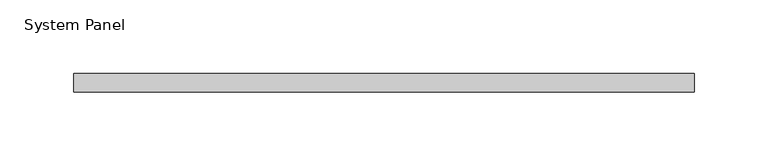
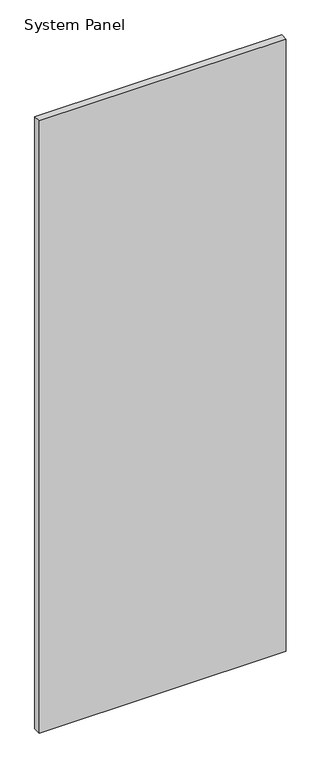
"""IFC4 building model written with IfcOpenShell, lengths in millimetres: plate geometry, System Panel : CR-BARANDA."""

from ifc_helpers import new_model, si_unit, origin, origin_with_axes, place, context, project, spatial, polyline, outline, extrude, source, transform, mapped, element, save


def system_panel_bb99d6db(model_context):
    return source(origin(), model_context, "Body", "SweptSolid", [
        extrude(outline(polyline([(209.9999998, -6.25), (-209.9999998, -6.25), (-209.9999998, 6.25), (209.9999998, 6.25), (209.9999998, -6.25)])), origin_with_axes(), (0.0, 0.0, 1.0), 1100.0),
    ])


if __name__ == "__main__":
    model = new_model("IFC4")
    model_context = context("Model", 3, world=origin())
    ifc_project = project(units=[si_unit("LENGTHUNIT", "METRE", prefix="MILLI")], contexts=[model_context])
    site = spatial("IfcSite", under=ifc_project)
    building = spatial("IfcBuilding", under=site)
    placement = place(None, origin())
    system_panel_shape = system_panel_bb99d6db(model_context)
    element("IfcPlate", 1, ObjectType="System Panel : CR-BARANDA", at=placement, inside=building, context=model_context, shape_type="MappedRepresentation", body=[
        mapped(system_panel_shape, transform((0.0, 0.0, 0.0), x_axis=(1.0, 0.0, 0.0), y_axis=(0.0, 1.0, 0.0), z_axis=(0.0, 0.0, 1.0))),
    ])
    save(model, "model.ifc")
